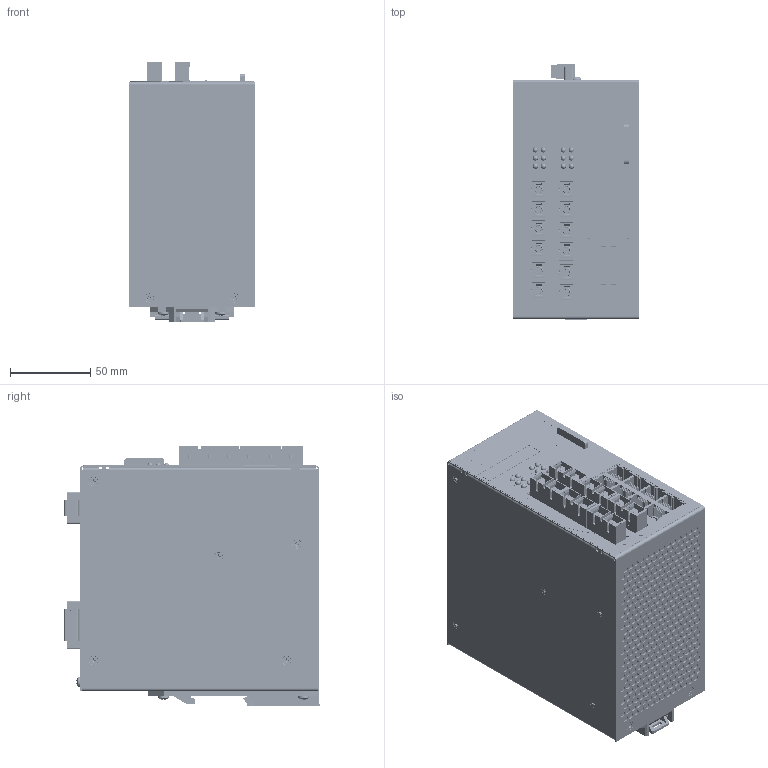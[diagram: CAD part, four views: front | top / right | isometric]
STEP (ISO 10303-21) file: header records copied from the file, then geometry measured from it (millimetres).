
FILE_DESCRIPTION (( 'STEP AP214' ), '1' );
FILE_NAME ('NT24k-14 GX-FX 6.STEP', '2023-02-28T20:29:08', ( '' ), ( '' ), 'SwSTEP 2.0', 'SolidWorks 2022', '' );
FILE_SCHEMA (( 'AUTOMOTIVE_DESIGN' ));
Length unit declared in the file: inch
Products named in the file (19): ethernet 2x4; mstb_2.5-4-5.08.stp; Right cover sheet metal; LED; NPTP0042; Left cover sheet metal; NHBDINR1; NHM06320_91249A144; Overlay; 14GX6 DB_Fiber_SC 3; 670688000; Front cover sheet metal; Part2; pxc_1778001_08_MSTB-2-5-4-STF-5-08_3D.stp; Part1; 14GX6 DB_Fiber_SC; NPTH0022; NHM04404_96640A334; NT24k-14 GX-FX 6
Assembly tree (43 placements, depth 4):
  NT24k-14 GX-FX 6
    Right cover sheet metal
    Left cover sheet metal
    Front cover sheet metal
    NHM04404_96640A334  x9
    NHBDINR1
    NHM06320_91249A144  x5
    670688000
    Part1
    Part2
    Overlay
    ethernet 2x4
    NPTH0022
    NPTP0042
      pxc_1778001_08_MSTB-2-5-4-STF-5-08_3D.stp
        mstb_2.5-4-5.08.stp
    14GX6 DB_Fiber_SC  x2
    14GX6 DB_Fiber_SC 3  x2
    LED  x12
Bounding box: 78.67 x 160.18 x 162.96 mm (x, y, z)
Volume: 1616720.9 mm3; surface area: 437179.6 mm2
Topology: 40 solids, 230 shells, 15318 faces, 43155 edges, 28285 vertices
Faces by surface type: plane 10824, cylinder 3410, bspline 736, cone 270, torus 44, sphere 34
Entity records: 446443 total; most frequent: CARTESIAN_POINT 136298, ORIENTED_EDGE 54909, DIRECTION 37092, EDGE_CURVE 27556, VERTEX_POINT 18111, AXIS2_PLACEMENT_3D 13172, B_SPLINE_CURVE_WITH_KNOTS 12433, EDGE_LOOP 11691
